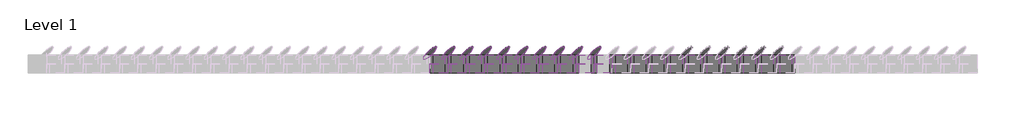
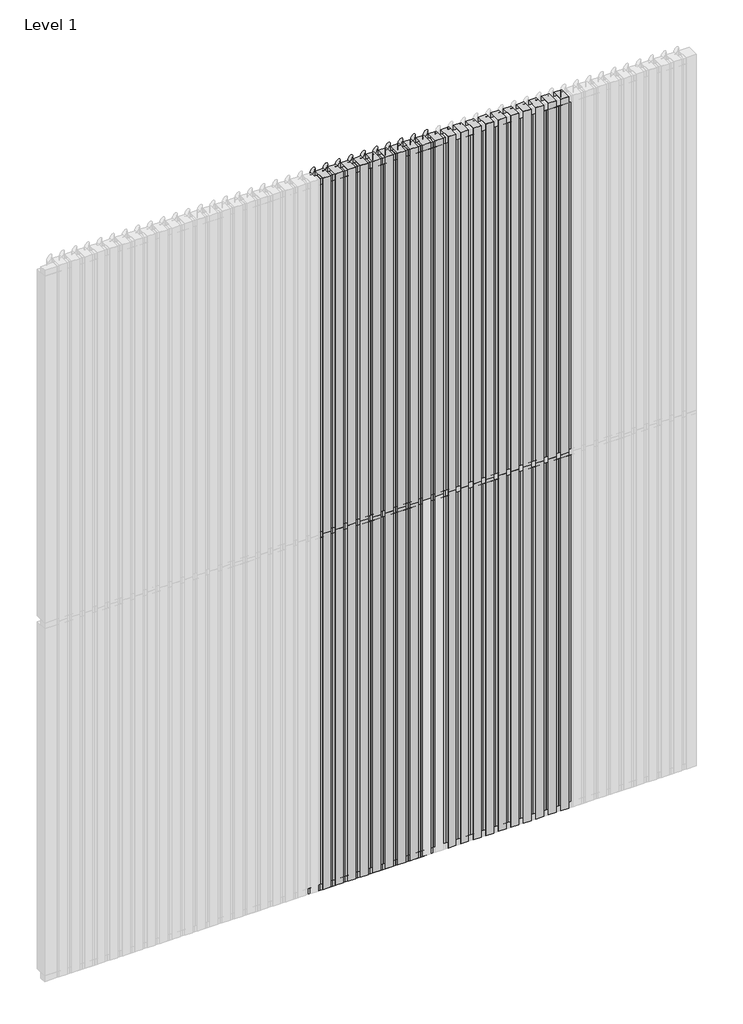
# One storey, part 3 of 4: 78 plates, 56 members.
"""IFC4 building model written with IfcOpenShell, lengths in millimetres."""

from ifc_helpers import new_model, si_unit, origin, place, context, project, spatial, transform, mapped, element, save
from components import rectangular_mullion_c274bac7, rectangular_mullion_cddbc660, rectangular_mullion_a3e25429, rectangular_mullion_ae434dd9, empty_system_panel_empty_80e3f5b0, empty_system_panel_empty_147de6ce

model = new_model("IFC4")

# Units and contexts
model_context = context("Model", 3, world=origin())
ifc_project = project(units=[si_unit("LENGTHUNIT", "METRE", prefix="MILLI")], contexts=[model_context])

# Site, building, storey
site = spatial("IfcSite", under=ifc_project)
building = spatial("IfcBuilding", under=site)
storey = spatial("IfcBuildingStorey", under=building, Name="Level 1", Elevation=0.0)

# Members
placement = place(None, origin())
rectangular_mullion_shape = rectangular_mullion_c274bac7(model_context)
element("IfcMember", 1, ObjectType="Rectangular Mullion : RSen_21_CWM_blade - 100 ellips - 45°_gen_duco projects", at=placement, inside=storey, context=model_context, shape_type="MappedRepresentation", body=[
    mapped(rectangular_mullion_shape, transform((4900.0, 3000.0, 0.0), x_axis=(-1.0, 0.0, 0.0), y_axis=(0.0, 1.0, 0.0), z_axis=(0.0, 0.0, -1.0))),
])
element("IfcMember", 2, ObjectType="Rectangular Mullion : RSen_21_CWM_blade - 100 ellips - 45°_gen_duco projects", at=placement, inside=storey, context=model_context, shape_type="MappedRepresentation", body=[
    mapped(rectangular_mullion_shape, transform((4800.0, 3000.0, 0.0), x_axis=(-1.0, 0.0, 0.0), y_axis=(0.0, 1.0, 0.0), z_axis=(0.0, 0.0, -1.0))),
])
element("IfcMember", 3, ObjectType="Rectangular Mullion : RSen_21_CWM_blade - 100 ellips - 45°_gen_duco projects", at=placement, inside=storey, context=model_context, shape_type="MappedRepresentation", body=[
    mapped(rectangular_mullion_shape, transform((4700.0, 3000.0, 0.0), x_axis=(-1.0, 0.0, 0.0), y_axis=(0.0, 1.0, 0.0), z_axis=(0.0, 0.0, -1.0))),
])
element("IfcMember", 4, ObjectType="Rectangular Mullion : RSen_21_CWM_blade - 100 ellips - 45°_gen_duco projects", at=placement, inside=storey, context=model_context, shape_type="MappedRepresentation", body=[
    mapped(rectangular_mullion_shape, transform((4600.0, 3000.0, 0.0), x_axis=(-1.0, 0.0, 0.0), y_axis=(0.0, 1.0, 0.0), z_axis=(0.0, 0.0, -1.0))),
])
element("IfcMember", 5, ObjectType="Rectangular Mullion : RSen_21_CWM_blade - 100 ellips - 45°_gen_duco projects", at=placement, inside=storey, context=model_context, shape_type="MappedRepresentation", body=[
    mapped(rectangular_mullion_shape, transform((4500.0, 3000.0, 0.0), x_axis=(-1.0, 0.0, 0.0), y_axis=(0.0, 1.0, 0.0), z_axis=(0.0, 0.0, -1.0))),
])
element("IfcMember", 6, ObjectType="Rectangular Mullion : RSen_21_CWM_blade - 100 ellips - 45°_gen_duco projects", at=placement, inside=storey, context=model_context, shape_type="MappedRepresentation", body=[
    mapped(rectangular_mullion_shape, transform((4400.0, 3000.0, 0.0), x_axis=(-1.0, 0.0, 0.0), y_axis=(0.0, 1.0, 0.0), z_axis=(0.0, 0.0, -1.0))),
])
element("IfcMember", 7, ObjectType="Rectangular Mullion : RSen_21_CWM_blade - 100 ellips - 45°_gen_duco projects", at=placement, inside=storey, context=model_context, shape_type="MappedRepresentation", body=[
    mapped(rectangular_mullion_shape, transform((3900.0, 3000.0, 0.0), x_axis=(-1.0, 0.0, 0.0), y_axis=(0.0, 1.0, 0.0), z_axis=(0.0, 0.0, -1.0))),
])
element("IfcMember", 8, ObjectType="Rectangular Mullion : RSen_21_CWM_blade - 100 ellips - 45°_gen_duco projects", at=placement, inside=storey, context=model_context, shape_type="MappedRepresentation", body=[
    mapped(rectangular_mullion_shape, transform((3800.0, 3000.0, 0.0), x_axis=(-1.0, 0.0, 0.0), y_axis=(0.0, 1.0, 0.0), z_axis=(0.0, 0.0, -1.0))),
])
element("IfcMember", 9, ObjectType="Rectangular Mullion : RSen_21_CWM_blade - 100 ellips - 45°_gen_duco projects", at=placement, inside=storey, context=model_context, shape_type="MappedRepresentation", body=[
    mapped(rectangular_mullion_shape, transform((3700.0, 3000.0, 0.0), x_axis=(-1.0, 0.0, 0.0), y_axis=(0.0, 1.0, 0.0), z_axis=(0.0, 0.0, -1.0))),
])
element("IfcMember", 10, ObjectType="Rectangular Mullion : RSen_21_CWM_blade - 100 ellips - 45°_gen_duco projects", at=placement, inside=storey, context=model_context, shape_type="MappedRepresentation", body=[
    mapped(rectangular_mullion_shape, transform((3600.0, 3000.0, 0.0), x_axis=(-1.0, 0.0, 0.0), y_axis=(0.0, 1.0, 0.0), z_axis=(0.0, 0.0, -1.0))),
])
element("IfcMember", 11, ObjectType="Rectangular Mullion : RSen_21_CWM_blade - 100 ellips - 45°_gen_duco projects", at=placement, inside=storey, context=model_context, shape_type="MappedRepresentation", body=[
    mapped(rectangular_mullion_shape, transform((3500.0, 3000.0, 0.0), x_axis=(-1.0, 0.0, 0.0), y_axis=(0.0, 1.0, 0.0), z_axis=(0.0, 0.0, -1.0))),
])
element("IfcMember", 12, ObjectType="Rectangular Mullion : RSen_21_CWM_blade - 100 ellips - 45°_gen_duco projects", at=placement, inside=storey, context=model_context, shape_type="MappedRepresentation", body=[
    mapped(rectangular_mullion_shape, transform((3400.0, 3000.0, 0.0), x_axis=(-1.0, 0.0, 0.0), y_axis=(0.0, 1.0, 0.0), z_axis=(0.0, 0.0, -1.0))),
])
element("IfcMember", 13, ObjectType="Rectangular Mullion : RSen_21_CWM_blade - 100 ellips - 45°_gen_duco projects", at=placement, inside=storey, context=model_context, shape_type="MappedRepresentation", body=[
    mapped(rectangular_mullion_shape, transform((3300.0, 3000.0, 0.0), x_axis=(-1.0, 0.0, 0.0), y_axis=(0.0, 1.0, 0.0), z_axis=(0.0, 0.0, -1.0))),
])
element("IfcMember", 14, ObjectType="Rectangular Mullion : RSen_21_CWM_blade - 100 ellips - 45°_gen_duco projects", at=placement, inside=storey, context=model_context, shape_type="MappedRepresentation", body=[
    mapped(rectangular_mullion_shape, transform((3200.0, 3000.0, 0.0), x_axis=(-1.0, 0.0, 0.0), y_axis=(0.0, 1.0, 0.0), z_axis=(0.0, 0.0, -1.0))),
])
element("IfcMember", 15, ObjectType="Rectangular Mullion : RSen_21_CWM_blade - 100 ellips - 45°_gen_duco projects", at=placement, inside=storey, context=model_context, shape_type="MappedRepresentation", body=[
    mapped(rectangular_mullion_shape, transform((3100.0, 3000.0, 0.0), x_axis=(-1.0, 0.0, 0.0), y_axis=(0.0, 1.0, 0.0), z_axis=(0.0, 0.0, -1.0))),
])
element("IfcMember", 16, ObjectType="Rectangular Mullion : RSen_21_CWM_blade - 100 ellips - 45°_gen_duco projects", at=placement, inside=storey, context=model_context, shape_type="MappedRepresentation", body=[
    mapped(rectangular_mullion_shape, transform((3000.0, 3000.0, 0.0), x_axis=(-1.0, 0.0, 0.0), y_axis=(0.0, 1.0, 0.0), z_axis=(0.0, 0.0, -1.0))),
])
element("IfcMember", 17, ObjectType="Rectangular Mullion : RSen_21_CWM_blade - 100 ellips - 45°_gen_duco projects", at=placement, inside=storey, context=model_context, shape_type="MappedRepresentation", body=[
    mapped(rectangular_mullion_shape, transform((3900.0, 3000.0, 3000.0), x_axis=(-1.0, 0.0, 0.0), y_axis=(0.0, 1.0, 0.0), z_axis=(0.0, 0.0, -1.0))),
])
element("IfcMember", 18, ObjectType="Rectangular Mullion : RSen_21_CWM_blade - 100 ellips - 45°_gen_duco projects", at=placement, inside=storey, context=model_context, shape_type="MappedRepresentation", body=[
    mapped(rectangular_mullion_shape, transform((3800.0, 3000.0, 3000.0), x_axis=(-1.0, 0.0, 0.0), y_axis=(0.0, 1.0, 0.0), z_axis=(0.0, 0.0, -1.0))),
])
element("IfcMember", 19, ObjectType="Rectangular Mullion : RSen_21_CWM_blade - 100 ellips - 45°_gen_duco projects", at=placement, inside=storey, context=model_context, shape_type="MappedRepresentation", body=[
    mapped(rectangular_mullion_shape, transform((3700.0, 3000.0, 3000.0), x_axis=(-1.0, 0.0, 0.0), y_axis=(0.0, 1.0, 0.0), z_axis=(0.0, 0.0, -1.0))),
])
element("IfcMember", 20, ObjectType="Rectangular Mullion : RSen_21_CWM_blade - 100 ellips - 45°_gen_duco projects", at=placement, inside=storey, context=model_context, shape_type="MappedRepresentation", body=[
    mapped(rectangular_mullion_shape, transform((3600.0, 3000.0, 3000.0), x_axis=(-1.0, 0.0, 0.0), y_axis=(0.0, 1.0, 0.0), z_axis=(0.0, 0.0, -1.0))),
])
element("IfcMember", 21, ObjectType="Rectangular Mullion : RSen_21_CWM_blade - 100 ellips - 45°_gen_duco projects", at=placement, inside=storey, context=model_context, shape_type="MappedRepresentation", body=[
    mapped(rectangular_mullion_shape, transform((3500.0, 3000.0, 3000.0), x_axis=(-1.0, 0.0, 0.0), y_axis=(0.0, 1.0, 0.0), z_axis=(0.0, 0.0, -1.0))),
])
element("IfcMember", 22, ObjectType="Rectangular Mullion : RSen_21_CWM_blade - 100 ellips - 45°_gen_duco projects", at=placement, inside=storey, context=model_context, shape_type="MappedRepresentation", body=[
    mapped(rectangular_mullion_shape, transform((3400.0, 3000.0, 3000.0), x_axis=(-1.0, 0.0, 0.0), y_axis=(0.0, 1.0, 0.0), z_axis=(0.0, 0.0, -1.0))),
])
element("IfcMember", 23, ObjectType="Rectangular Mullion : RSen_21_CWM_blade - 100 ellips - 45°_gen_duco projects", at=placement, inside=storey, context=model_context, shape_type="MappedRepresentation", body=[
    mapped(rectangular_mullion_shape, transform((3300.0, 3000.0, 3000.0), x_axis=(-1.0, 0.0, 0.0), y_axis=(0.0, 1.0, 0.0), z_axis=(0.0, 0.0, -1.0))),
])
element("IfcMember", 24, ObjectType="Rectangular Mullion : RSen_21_CWM_blade - 100 ellips - 45°_gen_duco projects", at=placement, inside=storey, context=model_context, shape_type="MappedRepresentation", body=[
    mapped(rectangular_mullion_shape, transform((3200.0, 3000.0, 3000.0), x_axis=(-1.0, 0.0, 0.0), y_axis=(0.0, 1.0, 0.0), z_axis=(0.0, 0.0, -1.0))),
])
element("IfcMember", 25, ObjectType="Rectangular Mullion : RSen_21_CWM_blade - 100 ellips - 45°_gen_duco projects", at=placement, inside=storey, context=model_context, shape_type="MappedRepresentation", body=[
    mapped(rectangular_mullion_shape, transform((3100.0, 3000.0, 3000.0), x_axis=(-1.0, 0.0, 0.0), y_axis=(0.0, 1.0, 0.0), z_axis=(0.0, 0.0, -1.0))),
])
element("IfcMember", 26, ObjectType="Rectangular Mullion : RSen_21_CWM_blade - 100 ellips - 45°_gen_duco projects", at=placement, inside=storey, context=model_context, shape_type="MappedRepresentation", body=[
    mapped(rectangular_mullion_shape, transform((3000.0, 3000.0, 3000.0), x_axis=(-1.0, 0.0, 0.0), y_axis=(0.0, 1.0, 0.0), z_axis=(0.0, 0.0, -1.0))),
])
rectangular_mullion_2_shape = rectangular_mullion_cddbc660(model_context)
element("IfcMember", 27, ObjectType="Rectangular Mullion : RSen_21_CWM_support profile 50x50 - left_gen_duco projects", at=placement, inside=storey, context=model_context, shape_type="MappedRepresentation", body=[
    mapped(rectangular_mullion_2_shape, transform((3900.0, 3000.0, 6000.0), x_axis=(0.0, 0.0, 1.0), y_axis=(0.0, 1.0, 0.0), z_axis=(-1.0, 0.0, 0.0))),
])
element("IfcMember", 28, ObjectType="Rectangular Mullion : RSen_21_CWM_support profile 50x50 - left_gen_duco projects", at=placement, inside=storey, context=model_context, shape_type="MappedRepresentation", body=[
    mapped(rectangular_mullion_2_shape, transform((3800.0, 3000.0, 6000.0), x_axis=(0.0, 0.0, 1.0), y_axis=(0.0, 1.0, 0.0), z_axis=(-1.0, 0.0, 0.0))),
])
element("IfcMember", 29, ObjectType="Rectangular Mullion : RSen_21_CWM_support profile 50x50 - left_gen_duco projects", at=placement, inside=storey, context=model_context, shape_type="MappedRepresentation", body=[
    mapped(rectangular_mullion_2_shape, transform((3700.0, 3000.0, 6000.0), x_axis=(0.0, 0.0, 1.0), y_axis=(0.0, 1.0, 0.0), z_axis=(-1.0, 0.0, 0.0))),
])
element("IfcMember", 30, ObjectType="Rectangular Mullion : RSen_21_CWM_support profile 50x50 - left_gen_duco projects", at=placement, inside=storey, context=model_context, shape_type="MappedRepresentation", body=[
    mapped(rectangular_mullion_2_shape, transform((3600.0, 3000.0, 6000.0), x_axis=(0.0, 0.0, 1.0), y_axis=(0.0, 1.0, 0.0), z_axis=(-1.0, 0.0, 0.0))),
])
element("IfcMember", 31, ObjectType="Rectangular Mullion : RSen_21_CWM_support profile 50x50 - left_gen_duco projects", at=placement, inside=storey, context=model_context, shape_type="MappedRepresentation", body=[
    mapped(rectangular_mullion_2_shape, transform((3500.0, 3000.0, 6000.0), x_axis=(0.0, 0.0, 1.0), y_axis=(0.0, 1.0, 0.0), z_axis=(-1.0, 0.0, 0.0))),
])
element("IfcMember", 32, ObjectType="Rectangular Mullion : RSen_21_CWM_support profile 50x50 - left_gen_duco projects", at=placement, inside=storey, context=model_context, shape_type="MappedRepresentation", body=[
    mapped(rectangular_mullion_2_shape, transform((3400.0, 3000.0, 6000.0), x_axis=(0.0, 0.0, 1.0), y_axis=(0.0, 1.0, 0.0), z_axis=(-1.0, 0.0, 0.0))),
])
element("IfcMember", 33, ObjectType="Rectangular Mullion : RSen_21_CWM_support profile 50x50 - left_gen_duco projects", at=placement, inside=storey, context=model_context, shape_type="MappedRepresentation", body=[
    mapped(rectangular_mullion_2_shape, transform((3300.0, 3000.0, 6000.0), x_axis=(0.0, 0.0, 1.0), y_axis=(0.0, 1.0, 0.0), z_axis=(-1.0, 0.0, 0.0))),
])
element("IfcMember", 34, ObjectType="Rectangular Mullion : RSen_21_CWM_support profile 50x50 - left_gen_duco projects", at=placement, inside=storey, context=model_context, shape_type="MappedRepresentation", body=[
    mapped(rectangular_mullion_2_shape, transform((3200.0, 3000.0, 6000.0), x_axis=(0.0, 0.0, 1.0), y_axis=(0.0, 1.0, 0.0), z_axis=(-1.0, 0.0, 0.0))),
])
element("IfcMember", 35, ObjectType="Rectangular Mullion : RSen_21_CWM_support profile 50x50 - left_gen_duco projects", at=placement, inside=storey, context=model_context, shape_type="MappedRepresentation", body=[
    mapped(rectangular_mullion_2_shape, transform((3100.0, 3000.0, 6000.0), x_axis=(0.0, 0.0, 1.0), y_axis=(0.0, 1.0, 0.0), z_axis=(-1.0, 0.0, 0.0))),
])
element("IfcMember", 36, ObjectType="Rectangular Mullion : RSen_21_CWM_support profile 50x50 - left_gen_duco projects", at=placement, inside=storey, context=model_context, shape_type="MappedRepresentation", body=[
    mapped(rectangular_mullion_2_shape, transform((3000.0, 3000.0, 6000.0), x_axis=(0.0, 0.0, 1.0), y_axis=(0.0, 1.0, 0.0), z_axis=(-1.0, 0.0, 0.0))),
])
rectangular_mullion_3_shape = rectangular_mullion_a3e25429(model_context)
element("IfcMember", 37, ObjectType="Rectangular Mullion : RSen_21_CWM_support profile 50x50 - right_gen_duco projects", at=placement, inside=storey, context=model_context, shape_type="MappedRepresentation", body=[
    mapped(rectangular_mullion_3_shape, transform((3900.0, 3000.0, 0.0), x_axis=(0.0, 0.0, -1.0), y_axis=(0.0, 1.0, 0.0), z_axis=(1.0, 0.0, 0.0))),
])
element("IfcMember", 38, ObjectType="Rectangular Mullion : RSen_21_CWM_support profile 50x50 - right_gen_duco projects", at=placement, inside=storey, context=model_context, shape_type="MappedRepresentation", body=[
    mapped(rectangular_mullion_3_shape, transform((3800.0, 3000.0, 0.0), x_axis=(0.0, 0.0, -1.0), y_axis=(0.0, 1.0, 0.0), z_axis=(1.0, 0.0, 0.0))),
])
element("IfcMember", 39, ObjectType="Rectangular Mullion : RSen_21_CWM_support profile 50x50 - right_gen_duco projects", at=placement, inside=storey, context=model_context, shape_type="MappedRepresentation", body=[
    mapped(rectangular_mullion_3_shape, transform((3700.0, 3000.0, 0.0), x_axis=(0.0, 0.0, -1.0), y_axis=(0.0, 1.0, 0.0), z_axis=(1.0, 0.0, 0.0))),
])
element("IfcMember", 40, ObjectType="Rectangular Mullion : RSen_21_CWM_support profile 50x50 - right_gen_duco projects", at=placement, inside=storey, context=model_context, shape_type="MappedRepresentation", body=[
    mapped(rectangular_mullion_3_shape, transform((3600.0, 3000.0, 0.0), x_axis=(0.0, 0.0, -1.0), y_axis=(0.0, 1.0, 0.0), z_axis=(1.0, 0.0, 0.0))),
])
element("IfcMember", 41, ObjectType="Rectangular Mullion : RSen_21_CWM_support profile 50x50 - right_gen_duco projects", at=placement, inside=storey, context=model_context, shape_type="MappedRepresentation", body=[
    mapped(rectangular_mullion_3_shape, transform((3500.0, 3000.0, 0.0), x_axis=(0.0, 0.0, -1.0), y_axis=(0.0, 1.0, 0.0), z_axis=(1.0, 0.0, 0.0))),
])
element("IfcMember", 42, ObjectType="Rectangular Mullion : RSen_21_CWM_support profile 50x50 - right_gen_duco projects", at=placement, inside=storey, context=model_context, shape_type="MappedRepresentation", body=[
    mapped(rectangular_mullion_3_shape, transform((3400.0, 3000.0, 0.0), x_axis=(0.0, 0.0, -1.0), y_axis=(0.0, 1.0, 0.0), z_axis=(1.0, 0.0, 0.0))),
])
element("IfcMember", 43, ObjectType="Rectangular Mullion : RSen_21_CWM_support profile 50x50 - right_gen_duco projects", at=placement, inside=storey, context=model_context, shape_type="MappedRepresentation", body=[
    mapped(rectangular_mullion_3_shape, transform((3300.0, 3000.0, 0.0), x_axis=(0.0, 0.0, -1.0), y_axis=(0.0, 1.0, 0.0), z_axis=(1.0, 0.0, 0.0))),
])
element("IfcMember", 44, ObjectType="Rectangular Mullion : RSen_21_CWM_support profile 50x50 - right_gen_duco projects", at=placement, inside=storey, context=model_context, shape_type="MappedRepresentation", body=[
    mapped(rectangular_mullion_3_shape, transform((3200.0, 3000.0, 0.0), x_axis=(0.0, 0.0, -1.0), y_axis=(0.0, 1.0, 0.0), z_axis=(1.0, 0.0, 0.0))),
])
element("IfcMember", 45, ObjectType="Rectangular Mullion : RSen_21_CWM_support profile 50x50 - right_gen_duco projects", at=placement, inside=storey, context=model_context, shape_type="MappedRepresentation", body=[
    mapped(rectangular_mullion_3_shape, transform((3100.0, 3000.0, 0.0), x_axis=(0.0, 0.0, -1.0), y_axis=(0.0, 1.0, 0.0), z_axis=(1.0, 0.0, 0.0))),
])
element("IfcMember", 46, ObjectType="Rectangular Mullion : RSen_21_CWM_support profile 50x50 - right_gen_duco projects", at=placement, inside=storey, context=model_context, shape_type="MappedRepresentation", body=[
    mapped(rectangular_mullion_3_shape, transform((3000.0, 3000.0, 0.0), x_axis=(0.0, 0.0, -1.0), y_axis=(0.0, 1.0, 0.0), z_axis=(1.0, 0.0, 0.0))),
])
rectangular_mullion_4_shape = rectangular_mullion_ae434dd9(model_context)
element("IfcMember", 47, ObjectType="Rectangular Mullion : RSen_21_CWM_support profile 50x50_gen_duco projects", at=placement, inside=storey, context=model_context, shape_type="MappedRepresentation", body=[
    mapped(rectangular_mullion_4_shape, transform((3900.0, 3000.0, 3000.0), x_axis=(0.0, 0.0, 1.0), y_axis=(0.0, 1.0, 0.0), z_axis=(-1.0, 0.0, 0.0))),
])
element("IfcMember", 48, ObjectType="Rectangular Mullion : RSen_21_CWM_support profile 50x50_gen_duco projects", at=placement, inside=storey, context=model_context, shape_type="MappedRepresentation", body=[
    mapped(rectangular_mullion_4_shape, transform((3800.0, 3000.0, 3000.0), x_axis=(0.0, 0.0, 1.0), y_axis=(0.0, 1.0, 0.0), z_axis=(-1.0, 0.0, 0.0))),
])
element("IfcMember", 49, ObjectType="Rectangular Mullion : RSen_21_CWM_support profile 50x50_gen_duco projects", at=placement, inside=storey, context=model_context, shape_type="MappedRepresentation", body=[
    mapped(rectangular_mullion_4_shape, transform((3700.0, 3000.0, 3000.0), x_axis=(0.0, 0.0, 1.0), y_axis=(0.0, 1.0, 0.0), z_axis=(-1.0, 0.0, 0.0))),
])
element("IfcMember", 50, ObjectType="Rectangular Mullion : RSen_21_CWM_support profile 50x50_gen_duco projects", at=placement, inside=storey, context=model_context, shape_type="MappedRepresentation", body=[
    mapped(rectangular_mullion_4_shape, transform((3600.0, 3000.0, 3000.0), x_axis=(0.0, 0.0, 1.0), y_axis=(0.0, 1.0, 0.0), z_axis=(-1.0, 0.0, 0.0))),
])
element("IfcMember", 51, ObjectType="Rectangular Mullion : RSen_21_CWM_support profile 50x50_gen_duco projects", at=placement, inside=storey, context=model_context, shape_type="MappedRepresentation", body=[
    mapped(rectangular_mullion_4_shape, transform((3500.0, 3000.0, 3000.0), x_axis=(0.0, 0.0, 1.0), y_axis=(0.0, 1.0, 0.0), z_axis=(-1.0, 0.0, 0.0))),
])
element("IfcMember", 52, ObjectType="Rectangular Mullion : RSen_21_CWM_support profile 50x50_gen_duco projects", at=placement, inside=storey, context=model_context, shape_type="MappedRepresentation", body=[
    mapped(rectangular_mullion_4_shape, transform((3400.0, 3000.0, 3000.0), x_axis=(0.0, 0.0, 1.0), y_axis=(0.0, 1.0, 0.0), z_axis=(-1.0, 0.0, 0.0))),
])
element("IfcMember", 53, ObjectType="Rectangular Mullion : RSen_21_CWM_support profile 50x50_gen_duco projects", at=placement, inside=storey, context=model_context, shape_type="MappedRepresentation", body=[
    mapped(rectangular_mullion_4_shape, transform((3300.0, 3000.0, 3000.0), x_axis=(0.0, 0.0, 1.0), y_axis=(0.0, 1.0, 0.0), z_axis=(-1.0, 0.0, 0.0))),
])
element("IfcMember", 54, ObjectType="Rectangular Mullion : RSen_21_CWM_support profile 50x50_gen_duco projects", at=placement, inside=storey, context=model_context, shape_type="MappedRepresentation", body=[
    mapped(rectangular_mullion_4_shape, transform((3200.0, 3000.0, 3000.0), x_axis=(0.0, 0.0, 1.0), y_axis=(0.0, 1.0, 0.0), z_axis=(-1.0, 0.0, 0.0))),
])
element("IfcMember", 55, ObjectType="Rectangular Mullion : RSen_21_CWM_support profile 50x50_gen_duco projects", at=placement, inside=storey, context=model_context, shape_type="MappedRepresentation", body=[
    mapped(rectangular_mullion_4_shape, transform((3100.0, 3000.0, 3000.0), x_axis=(0.0, 0.0, 1.0), y_axis=(0.0, 1.0, 0.0), z_axis=(-1.0, 0.0, 0.0))),
])
element("IfcMember", 56, ObjectType="Rectangular Mullion : RSen_21_CWM_support profile 50x50_gen_duco projects", at=placement, inside=storey, context=model_context, shape_type="MappedRepresentation", body=[
    mapped(rectangular_mullion_4_shape, transform((3000.0, 3000.0, 3000.0), x_axis=(0.0, 0.0, 1.0), y_axis=(0.0, 1.0, 0.0), z_axis=(-1.0, 0.0, 0.0))),
])

# Plates
empty_system_panel_empty_shape = empty_system_panel_empty_80e3f5b0(model_context)
element("IfcPlate", 57, ObjectType="Empty System Panel : Empty", at=placement, inside=storey, context=model_context, shape_type="MappedRepresentation", body=[
    mapped(empty_system_panel_empty_shape, transform((4950.0, 3000.0, 0.0), x_axis=(-1.0, 0.0, 0.0), y_axis=(0.0, -1.0, 0.0), z_axis=(0.0, 0.0, 1.0))),
])
element("IfcPlate", 58, ObjectType="Empty System Panel : Empty", at=placement, inside=storey, context=model_context, shape_type="MappedRepresentation", body=[
    mapped(empty_system_panel_empty_shape, transform((4850.0, 3000.0, 0.0), x_axis=(-1.0, 0.0, 0.0), y_axis=(0.0, -1.0, 0.0), z_axis=(0.0, 0.0, 1.0))),
])
element("IfcPlate", 59, ObjectType="Empty System Panel : Empty", at=placement, inside=storey, context=model_context, shape_type="MappedRepresentation", body=[
    mapped(empty_system_panel_empty_shape, transform((4750.0, 3000.0, 0.0), x_axis=(-1.0, 0.0, 0.0), y_axis=(0.0, -1.0, 0.0), z_axis=(0.0, 0.0, 1.0))),
])
element("IfcPlate", 60, ObjectType="Empty System Panel : Empty", at=placement, inside=storey, context=model_context, shape_type="MappedRepresentation", body=[
    mapped(empty_system_panel_empty_shape, transform((4650.0, 3000.0, 0.0), x_axis=(-1.0, 0.0, 0.0), y_axis=(0.0, -1.0, 0.0), z_axis=(0.0, 0.0, 1.0))),
])
element("IfcPlate", 61, ObjectType="Empty System Panel : Empty", at=placement, inside=storey, context=model_context, shape_type="MappedRepresentation", body=[
    mapped(empty_system_panel_empty_shape, transform((4550.0, 3000.0, 0.0), x_axis=(-1.0, 0.0, 0.0), y_axis=(0.0, -1.0, 0.0), z_axis=(0.0, 0.0, 1.0))),
])
element("IfcPlate", 62, ObjectType="Empty System Panel : Empty", at=placement, inside=storey, context=model_context, shape_type="MappedRepresentation", body=[
    mapped(empty_system_panel_empty_shape, transform((4450.0, 3000.0, 0.0), x_axis=(-1.0, 0.0, 0.0), y_axis=(0.0, -1.0, 0.0), z_axis=(0.0, 0.0, 1.0))),
])
element("IfcPlate", 63, ObjectType="Empty System Panel : Empty", at=placement, inside=storey, context=model_context, shape_type="MappedRepresentation", body=[
    mapped(empty_system_panel_empty_shape, transform((4350.0, 3000.0, 0.0), x_axis=(-1.0, 0.0, 0.0), y_axis=(0.0, -1.0, 0.0), z_axis=(0.0, 0.0, 1.0))),
])
element("IfcPlate", 64, ObjectType="Empty System Panel : Empty", at=placement, inside=storey, context=model_context, shape_type="MappedRepresentation", body=[
    mapped(empty_system_panel_empty_shape, transform((4250.0, 3000.0, 0.0), x_axis=(-1.0, 0.0, 0.0), y_axis=(0.0, -1.0, 0.0), z_axis=(0.0, 0.0, 1.0))),
])
element("IfcPlate", 65, ObjectType="Empty System Panel : Empty", at=placement, inside=storey, context=model_context, shape_type="MappedRepresentation", body=[
    mapped(empty_system_panel_empty_shape, transform((4150.0, 3000.0, 0.0), x_axis=(-1.0, 0.0, 0.0), y_axis=(0.0, -1.0, 0.0), z_axis=(0.0, 0.0, 1.0))),
])
element("IfcPlate", 66, ObjectType="Empty System Panel : Empty", at=placement, inside=storey, context=model_context, shape_type="MappedRepresentation", body=[
    mapped(empty_system_panel_empty_shape, transform((4050.0, 3000.0, 0.0), x_axis=(-1.0, 0.0, 0.0), y_axis=(0.0, -1.0, 0.0), z_axis=(0.0, 0.0, 1.0))),
])
element("IfcPlate", 67, ObjectType="Empty System Panel : Empty", at=placement, inside=storey, context=model_context, shape_type="MappedRepresentation", body=[
    mapped(empty_system_panel_empty_shape, transform((3750.0, 3000.0, 0.0), x_axis=(-1.0, 0.0, 0.0), y_axis=(0.0, -1.0, 0.0), z_axis=(0.0, 0.0, 1.0))),
])
element("IfcPlate", 68, ObjectType="Empty System Panel : Empty", at=placement, inside=storey, context=model_context, shape_type="MappedRepresentation", body=[
    mapped(empty_system_panel_empty_shape, transform((3650.0, 3000.0, 0.0), x_axis=(-1.0, 0.0, 0.0), y_axis=(0.0, -1.0, 0.0), z_axis=(0.0, 0.0, 1.0))),
])
element("IfcPlate", 69, ObjectType="Empty System Panel : Empty", at=placement, inside=storey, context=model_context, shape_type="MappedRepresentation", body=[
    mapped(empty_system_panel_empty_shape, transform((3550.0, 3000.0, 0.0), x_axis=(-1.0, 0.0, 0.0), y_axis=(0.0, -1.0, 0.0), z_axis=(0.0, 0.0, 1.0))),
])
element("IfcPlate", 70, ObjectType="Empty System Panel : Empty", at=placement, inside=storey, context=model_context, shape_type="MappedRepresentation", body=[
    mapped(empty_system_panel_empty_shape, transform((3450.0, 3000.0, 0.0), x_axis=(-1.0, 0.0, 0.0), y_axis=(0.0, -1.0, 0.0), z_axis=(0.0, 0.0, 1.0))),
])
element("IfcPlate", 71, ObjectType="Empty System Panel : Empty", at=placement, inside=storey, context=model_context, shape_type="MappedRepresentation", body=[
    mapped(empty_system_panel_empty_shape, transform((3350.0, 3000.0, 0.0), x_axis=(-1.0, 0.0, 0.0), y_axis=(0.0, -1.0, 0.0), z_axis=(0.0, 0.0, 1.0))),
])
element("IfcPlate", 72, ObjectType="Empty System Panel : Empty", at=placement, inside=storey, context=model_context, shape_type="MappedRepresentation", body=[
    mapped(empty_system_panel_empty_shape, transform((3250.0, 3000.0, 0.0), x_axis=(-1.0, 0.0, 0.0), y_axis=(0.0, -1.0, 0.0), z_axis=(0.0, 0.0, 1.0))),
])
element("IfcPlate", 73, ObjectType="Empty System Panel : Empty", at=placement, inside=storey, context=model_context, shape_type="MappedRepresentation", body=[
    mapped(empty_system_panel_empty_shape, transform((3150.0, 3000.0, 0.0), x_axis=(-1.0, 0.0, 0.0), y_axis=(0.0, -1.0, 0.0), z_axis=(0.0, 0.0, 1.0))),
])
element("IfcPlate", 74, ObjectType="Empty System Panel : Empty", at=placement, inside=storey, context=model_context, shape_type="MappedRepresentation", body=[
    mapped(empty_system_panel_empty_shape, transform((3050.0, 3000.0, 0.0), x_axis=(-1.0, 0.0, 0.0), y_axis=(0.0, -1.0, 0.0), z_axis=(0.0, 0.0, 1.0))),
])
element("IfcPlate", 75, ObjectType="Empty System Panel : Empty", at=placement, inside=storey, context=model_context, shape_type="MappedRepresentation", body=[
    mapped(empty_system_panel_empty_shape, transform((4950.0, 3000.0, 3000.0), x_axis=(-1.0, 0.0, 0.0), y_axis=(0.0, -1.0, 0.0), z_axis=(0.0, 0.0, 1.0))),
])
element("IfcPlate", 76, ObjectType="Empty System Panel : Empty", at=placement, inside=storey, context=model_context, shape_type="MappedRepresentation", body=[
    mapped(empty_system_panel_empty_shape, transform((4850.0, 3000.0, 3000.0), x_axis=(-1.0, 0.0, 0.0), y_axis=(0.0, -1.0, 0.0), z_axis=(0.0, 0.0, 1.0))),
])
element("IfcPlate", 77, ObjectType="Empty System Panel : Empty", at=placement, inside=storey, context=model_context, shape_type="MappedRepresentation", body=[
    mapped(empty_system_panel_empty_shape, transform((4750.0, 3000.0, 3000.0), x_axis=(-1.0, 0.0, 0.0), y_axis=(0.0, -1.0, 0.0), z_axis=(0.0, 0.0, 1.0))),
])
element("IfcPlate", 78, ObjectType="Empty System Panel : Empty", at=placement, inside=storey, context=model_context, shape_type="MappedRepresentation", body=[
    mapped(empty_system_panel_empty_shape, transform((4650.0, 3000.0, 3000.0), x_axis=(-1.0, 0.0, 0.0), y_axis=(0.0, -1.0, 0.0), z_axis=(0.0, 0.0, 1.0))),
])
element("IfcPlate", 79, ObjectType="Empty System Panel : Empty", at=placement, inside=storey, context=model_context, shape_type="MappedRepresentation", body=[
    mapped(empty_system_panel_empty_shape, transform((4550.0, 3000.0, 3000.0), x_axis=(-1.0, 0.0, 0.0), y_axis=(0.0, -1.0, 0.0), z_axis=(0.0, 0.0, 1.0))),
])
element("IfcPlate", 80, ObjectType="Empty System Panel : Empty", at=placement, inside=storey, context=model_context, shape_type="MappedRepresentation", body=[
    mapped(empty_system_panel_empty_shape, transform((4450.0, 3000.0, 3000.0), x_axis=(-1.0, 0.0, 0.0), y_axis=(0.0, -1.0, 0.0), z_axis=(0.0, 0.0, 1.0))),
])
element("IfcPlate", 81, ObjectType="Empty System Panel : Empty", at=placement, inside=storey, context=model_context, shape_type="MappedRepresentation", body=[
    mapped(empty_system_panel_empty_shape, transform((4350.0, 3000.0, 3000.0), x_axis=(-1.0, 0.0, 0.0), y_axis=(0.0, -1.0, 0.0), z_axis=(0.0, 0.0, 1.0))),
])
element("IfcPlate", 82, ObjectType="Empty System Panel : Empty", at=placement, inside=storey, context=model_context, shape_type="MappedRepresentation", body=[
    mapped(empty_system_panel_empty_shape, transform((4250.0, 3000.0, 3000.0), x_axis=(-1.0, 0.0, 0.0), y_axis=(0.0, -1.0, 0.0), z_axis=(0.0, 0.0, 1.0))),
])
element("IfcPlate", 83, ObjectType="Empty System Panel : Empty", at=placement, inside=storey, context=model_context, shape_type="MappedRepresentation", body=[
    mapped(empty_system_panel_empty_shape, transform((4150.0, 3000.0, 3000.0), x_axis=(-1.0, 0.0, 0.0), y_axis=(0.0, -1.0, 0.0), z_axis=(0.0, 0.0, 1.0))),
])
element("IfcPlate", 84, ObjectType="Empty System Panel : Empty", at=placement, inside=storey, context=model_context, shape_type="MappedRepresentation", body=[
    mapped(empty_system_panel_empty_shape, transform((4050.0, 3000.0, 3000.0), x_axis=(-1.0, 0.0, 0.0), y_axis=(0.0, -1.0, 0.0), z_axis=(0.0, 0.0, 1.0))),
])
element("IfcPlate", 85, ObjectType="Empty System Panel : Empty", at=placement, inside=storey, context=model_context, shape_type="MappedRepresentation", body=[
    mapped(empty_system_panel_empty_shape, transform((3950.0, 3000.0, 3000.0), x_axis=(-1.0, 0.0, 0.0), y_axis=(0.0, -1.0, 0.0), z_axis=(0.0, 0.0, 1.0))),
])
element("IfcPlate", 86, ObjectType="Empty System Panel : Empty", at=placement, inside=storey, context=model_context, shape_type="MappedRepresentation", body=[
    mapped(empty_system_panel_empty_shape, transform((3850.0, 3000.0, 3000.0), x_axis=(-1.0, 0.0, 0.0), y_axis=(0.0, -1.0, 0.0), z_axis=(0.0, 0.0, 1.0))),
])
element("IfcPlate", 87, ObjectType="Empty System Panel : Empty", at=placement, inside=storey, context=model_context, shape_type="MappedRepresentation", body=[
    mapped(empty_system_panel_empty_shape, transform((3750.0, 3000.0, 3000.0), x_axis=(-1.0, 0.0, 0.0), y_axis=(0.0, -1.0, 0.0), z_axis=(0.0, 0.0, 1.0))),
])
element("IfcPlate", 88, ObjectType="Empty System Panel : Empty", at=placement, inside=storey, context=model_context, shape_type="MappedRepresentation", body=[
    mapped(empty_system_panel_empty_shape, transform((3650.0, 3000.0, 3000.0), x_axis=(-1.0, 0.0, 0.0), y_axis=(0.0, -1.0, 0.0), z_axis=(0.0, 0.0, 1.0))),
])
element("IfcPlate", 89, ObjectType="Empty System Panel : Empty", at=placement, inside=storey, context=model_context, shape_type="MappedRepresentation", body=[
    mapped(empty_system_panel_empty_shape, transform((3550.0, 3000.0, 3000.0), x_axis=(-1.0, 0.0, 0.0), y_axis=(0.0, -1.0, 0.0), z_axis=(0.0, 0.0, 1.0))),
])
element("IfcPlate", 90, ObjectType="Empty System Panel : Empty", at=placement, inside=storey, context=model_context, shape_type="MappedRepresentation", body=[
    mapped(empty_system_panel_empty_shape, transform((3450.0, 3000.0, 3000.0), x_axis=(-1.0, 0.0, 0.0), y_axis=(0.0, -1.0, 0.0), z_axis=(0.0, 0.0, 1.0))),
])
element("IfcPlate", 91, ObjectType="Empty System Panel : Empty", at=placement, inside=storey, context=model_context, shape_type="MappedRepresentation", body=[
    mapped(empty_system_panel_empty_shape, transform((3350.0, 3000.0, 3000.0), x_axis=(-1.0, 0.0, 0.0), y_axis=(0.0, -1.0, 0.0), z_axis=(0.0, 0.0, 1.0))),
])
element("IfcPlate", 92, ObjectType="Empty System Panel : Empty", at=placement, inside=storey, context=model_context, shape_type="MappedRepresentation", body=[
    mapped(empty_system_panel_empty_shape, transform((3250.0, 3000.0, 3000.0), x_axis=(-1.0, 0.0, 0.0), y_axis=(0.0, -1.0, 0.0), z_axis=(0.0, 0.0, 1.0))),
])
element("IfcPlate", 93, ObjectType="Empty System Panel : Empty", at=placement, inside=storey, context=model_context, shape_type="MappedRepresentation", body=[
    mapped(empty_system_panel_empty_shape, transform((3150.0, 3000.0, 3000.0), x_axis=(-1.0, 0.0, 0.0), y_axis=(0.0, -1.0, 0.0), z_axis=(0.0, 0.0, 1.0))),
])
element("IfcPlate", 94, ObjectType="Empty System Panel : Empty", at=placement, inside=storey, context=model_context, shape_type="MappedRepresentation", body=[
    mapped(empty_system_panel_empty_shape, transform((3050.0, 3000.0, 3000.0), x_axis=(-1.0, 0.0, 0.0), y_axis=(0.0, -1.0, 0.0), z_axis=(0.0, 0.0, 1.0))),
])
empty_system_panel_empty_2_shape = empty_system_panel_empty_147de6ce(model_context)
element("IfcPlate", 95, ObjectType="Empty System Panel : Empty", at=placement, inside=storey, context=model_context, shape_type="MappedRepresentation", body=[
    mapped(empty_system_panel_empty_2_shape, transform((4950.0, 3000.0, 50.0), x_axis=(-1.0, 0.0, 0.0), y_axis=(0.0, -1.0, 0.0), z_axis=(0.0, 0.0, 1.0))),
])
element("IfcPlate", 96, ObjectType="Empty System Panel : Empty", at=placement, inside=storey, context=model_context, shape_type="MappedRepresentation", body=[
    mapped(empty_system_panel_empty_2_shape, transform((4850.0, 3000.0, 50.0), x_axis=(-1.0, 0.0, 0.0), y_axis=(0.0, -1.0, 0.0), z_axis=(0.0, 0.0, 1.0))),
])
element("IfcPlate", 97, ObjectType="Empty System Panel : Empty", at=placement, inside=storey, context=model_context, shape_type="MappedRepresentation", body=[
    mapped(empty_system_panel_empty_2_shape, transform((4750.0, 3000.0, 50.0), x_axis=(-1.0, 0.0, 0.0), y_axis=(0.0, -1.0, 0.0), z_axis=(0.0, 0.0, 1.0))),
])
element("IfcPlate", 98, ObjectType="Empty System Panel : Empty", at=placement, inside=storey, context=model_context, shape_type="MappedRepresentation", body=[
    mapped(empty_system_panel_empty_2_shape, transform((4650.0, 3000.0, 50.0), x_axis=(-1.0, 0.0, 0.0), y_axis=(0.0, -1.0, 0.0), z_axis=(0.0, 0.0, 1.0))),
])
element("IfcPlate", 99, ObjectType="Empty System Panel : Empty", at=placement, inside=storey, context=model_context, shape_type="MappedRepresentation", body=[
    mapped(empty_system_panel_empty_2_shape, transform((4550.0, 3000.0, 50.0), x_axis=(-1.0, 0.0, 0.0), y_axis=(0.0, -1.0, 0.0), z_axis=(0.0, 0.0, 1.0))),
])
element("IfcPlate", 100, ObjectType="Empty System Panel : Empty", at=placement, inside=storey, context=model_context, shape_type="MappedRepresentation", body=[
    mapped(empty_system_panel_empty_2_shape, transform((4450.0, 3000.0, 50.0), x_axis=(-1.0, 0.0, 0.0), y_axis=(0.0, -1.0, 0.0), z_axis=(0.0, 0.0, 1.0))),
])
element("IfcPlate", 101, ObjectType="Empty System Panel : Empty", at=placement, inside=storey, context=model_context, shape_type="MappedRepresentation", body=[
    mapped(empty_system_panel_empty_2_shape, transform((4350.0, 3000.0, 50.0), x_axis=(-1.0, 0.0, 0.0), y_axis=(0.0, -1.0, 0.0), z_axis=(0.0, 0.0, 1.0))),
])
element("IfcPlate", 102, ObjectType="Empty System Panel : Empty", at=placement, inside=storey, context=model_context, shape_type="MappedRepresentation", body=[
    mapped(empty_system_panel_empty_2_shape, transform((4250.0, 3000.0, 50.0), x_axis=(-1.0, 0.0, 0.0), y_axis=(0.0, -1.0, 0.0), z_axis=(0.0, 0.0, 1.0))),
])
element("IfcPlate", 103, ObjectType="Empty System Panel : Empty", at=placement, inside=storey, context=model_context, shape_type="MappedRepresentation", body=[
    mapped(empty_system_panel_empty_2_shape, transform((4150.0, 3000.0, 50.0), x_axis=(-1.0, 0.0, 0.0), y_axis=(0.0, -1.0, 0.0), z_axis=(0.0, 0.0, 1.0))),
])
element("IfcPlate", 104, ObjectType="Empty System Panel : Empty", at=placement, inside=storey, context=model_context, shape_type="MappedRepresentation", body=[
    mapped(empty_system_panel_empty_2_shape, transform((4050.0, 3000.0, 50.0), x_axis=(-1.0, 0.0, 0.0), y_axis=(0.0, -1.0, 0.0), z_axis=(0.0, 0.0, 1.0))),
])
element("IfcPlate", 105, ObjectType="Empty System Panel : Empty", at=placement, inside=storey, context=model_context, shape_type="MappedRepresentation", body=[
    mapped(empty_system_panel_empty_2_shape, transform((3950.0, 3000.0, 50.0), x_axis=(-1.0, 0.0, 0.0), y_axis=(0.0, -1.0, 0.0), z_axis=(0.0, 0.0, 1.0))),
])
element("IfcPlate", 106, ObjectType="Empty System Panel : Empty", at=placement, inside=storey, context=model_context, shape_type="MappedRepresentation", body=[
    mapped(empty_system_panel_empty_2_shape, transform((3850.0, 3000.0, 50.0), x_axis=(-1.0, 0.0, 0.0), y_axis=(0.0, -1.0, 0.0), z_axis=(0.0, 0.0, 1.0))),
])
element("IfcPlate", 107, ObjectType="Empty System Panel : Empty", at=placement, inside=storey, context=model_context, shape_type="MappedRepresentation", body=[
    mapped(empty_system_panel_empty_2_shape, transform((3750.0, 3000.0, 50.0), x_axis=(-1.0, 0.0, 0.0), y_axis=(0.0, -1.0, 0.0), z_axis=(0.0, 0.0, 1.0))),
])
element("IfcPlate", 108, ObjectType="Empty System Panel : Empty", at=placement, inside=storey, context=model_context, shape_type="MappedRepresentation", body=[
    mapped(empty_system_panel_empty_2_shape, transform((3650.0, 3000.0, 50.0), x_axis=(-1.0, 0.0, 0.0), y_axis=(0.0, -1.0, 0.0), z_axis=(0.0, 0.0, 1.0))),
])
element("IfcPlate", 109, ObjectType="Empty System Panel : Empty", at=placement, inside=storey, context=model_context, shape_type="MappedRepresentation", body=[
    mapped(empty_system_panel_empty_2_shape, transform((3550.0, 3000.0, 50.0), x_axis=(-1.0, 0.0, 0.0), y_axis=(0.0, -1.0, 0.0), z_axis=(0.0, 0.0, 1.0))),
])
element("IfcPlate", 110, ObjectType="Empty System Panel : Empty", at=placement, inside=storey, context=model_context, shape_type="MappedRepresentation", body=[
    mapped(empty_system_panel_empty_2_shape, transform((3450.0, 3000.0, 50.0), x_axis=(-1.0, 0.0, 0.0), y_axis=(0.0, -1.0, 0.0), z_axis=(0.0, 0.0, 1.0))),
])
element("IfcPlate", 111, ObjectType="Empty System Panel : Empty", at=placement, inside=storey, context=model_context, shape_type="MappedRepresentation", body=[
    mapped(empty_system_panel_empty_2_shape, transform((3350.0, 3000.0, 50.0), x_axis=(-1.0, 0.0, 0.0), y_axis=(0.0, -1.0, 0.0), z_axis=(0.0, 0.0, 1.0))),
])
element("IfcPlate", 112, ObjectType="Empty System Panel : Empty", at=placement, inside=storey, context=model_context, shape_type="MappedRepresentation", body=[
    mapped(empty_system_panel_empty_2_shape, transform((3250.0, 3000.0, 50.0), x_axis=(-1.0, 0.0, 0.0), y_axis=(0.0, -1.0, 0.0), z_axis=(0.0, 0.0, 1.0))),
])
element("IfcPlate", 113, ObjectType="Empty System Panel : Empty", at=placement, inside=storey, context=model_context, shape_type="MappedRepresentation", body=[
    mapped(empty_system_panel_empty_2_shape, transform((3150.0, 3000.0, 50.0), x_axis=(-1.0, 0.0, 0.0), y_axis=(0.0, -1.0, 0.0), z_axis=(0.0, 0.0, 1.0))),
])
element("IfcPlate", 114, ObjectType="Empty System Panel : Empty", at=placement, inside=storey, context=model_context, shape_type="MappedRepresentation", body=[
    mapped(empty_system_panel_empty_2_shape, transform((3050.0, 3000.0, 50.0), x_axis=(-1.0, 0.0, 0.0), y_axis=(0.0, -1.0, 0.0), z_axis=(0.0, 0.0, 1.0))),
])
element("IfcPlate", 115, ObjectType="Empty System Panel : Empty", at=placement, inside=storey, context=model_context, shape_type="MappedRepresentation", body=[
    mapped(empty_system_panel_empty_2_shape, transform((4950.0, 3000.0, 3025.0), x_axis=(-1.0, 0.0, 0.0), y_axis=(0.0, -1.0, 0.0), z_axis=(0.0, 0.0, 1.0))),
])
element("IfcPlate", 116, ObjectType="Empty System Panel : Empty", at=placement, inside=storey, context=model_context, shape_type="MappedRepresentation", body=[
    mapped(empty_system_panel_empty_2_shape, transform((4850.0, 3000.0, 3025.0), x_axis=(-1.0, 0.0, 0.0), y_axis=(0.0, -1.0, 0.0), z_axis=(0.0, 0.0, 1.0))),
])
element("IfcPlate", 117, ObjectType="Empty System Panel : Empty", at=placement, inside=storey, context=model_context, shape_type="MappedRepresentation", body=[
    mapped(empty_system_panel_empty_2_shape, transform((4750.0, 3000.0, 3025.0), x_axis=(-1.0, 0.0, 0.0), y_axis=(0.0, -1.0, 0.0), z_axis=(0.0, 0.0, 1.0))),
])
element("IfcPlate", 118, ObjectType="Empty System Panel : Empty", at=placement, inside=storey, context=model_context, shape_type="MappedRepresentation", body=[
    mapped(empty_system_panel_empty_2_shape, transform((4650.0, 3000.0, 3025.0), x_axis=(-1.0, 0.0, 0.0), y_axis=(0.0, -1.0, 0.0), z_axis=(0.0, 0.0, 1.0))),
])
element("IfcPlate", 119, ObjectType="Empty System Panel : Empty", at=placement, inside=storey, context=model_context, shape_type="MappedRepresentation", body=[
    mapped(empty_system_panel_empty_2_shape, transform((4550.0, 3000.0, 3025.0), x_axis=(-1.0, 0.0, 0.0), y_axis=(0.0, -1.0, 0.0), z_axis=(0.0, 0.0, 1.0))),
])
element("IfcPlate", 120, ObjectType="Empty System Panel : Empty", at=placement, inside=storey, context=model_context, shape_type="MappedRepresentation", body=[
    mapped(empty_system_panel_empty_2_shape, transform((4450.0, 3000.0, 3025.0), x_axis=(-1.0, 0.0, 0.0), y_axis=(0.0, -1.0, 0.0), z_axis=(0.0, 0.0, 1.0))),
])
element("IfcPlate", 121, ObjectType="Empty System Panel : Empty", at=placement, inside=storey, context=model_context, shape_type="MappedRepresentation", body=[
    mapped(empty_system_panel_empty_2_shape, transform((4350.0, 3000.0, 3025.0), x_axis=(-1.0, 0.0, 0.0), y_axis=(0.0, -1.0, 0.0), z_axis=(0.0, 0.0, 1.0))),
])
element("IfcPlate", 122, ObjectType="Empty System Panel : Empty", at=placement, inside=storey, context=model_context, shape_type="MappedRepresentation", body=[
    mapped(empty_system_panel_empty_2_shape, transform((4250.0, 3000.0, 3025.0), x_axis=(-1.0, 0.0, 0.0), y_axis=(0.0, -1.0, 0.0), z_axis=(0.0, 0.0, 1.0))),
])
element("IfcPlate", 123, ObjectType="Empty System Panel : Empty", at=placement, inside=storey, context=model_context, shape_type="MappedRepresentation", body=[
    mapped(empty_system_panel_empty_2_shape, transform((4150.0, 3000.0, 3025.0), x_axis=(-1.0, 0.0, 0.0), y_axis=(0.0, -1.0, 0.0), z_axis=(0.0, 0.0, 1.0))),
])
element("IfcPlate", 124, ObjectType="Empty System Panel : Empty", at=placement, inside=storey, context=model_context, shape_type="MappedRepresentation", body=[
    mapped(empty_system_panel_empty_2_shape, transform((4050.0, 3000.0, 3025.0), x_axis=(-1.0, 0.0, 0.0), y_axis=(0.0, -1.0, 0.0), z_axis=(0.0, 0.0, 1.0))),
])
element("IfcPlate", 125, ObjectType="Empty System Panel : Empty", at=placement, inside=storey, context=model_context, shape_type="MappedRepresentation", body=[
    mapped(empty_system_panel_empty_2_shape, transform((3950.0, 3000.0, 3025.0), x_axis=(-1.0, 0.0, 0.0), y_axis=(0.0, -1.0, 0.0), z_axis=(0.0, 0.0, 1.0))),
])
element("IfcPlate", 126, ObjectType="Empty System Panel : Empty", at=placement, inside=storey, context=model_context, shape_type="MappedRepresentation", body=[
    mapped(empty_system_panel_empty_2_shape, transform((3850.0, 3000.0, 3025.0), x_axis=(-1.0, 0.0, 0.0), y_axis=(0.0, -1.0, 0.0), z_axis=(0.0, 0.0, 1.0))),
])
element("IfcPlate", 127, ObjectType="Empty System Panel : Empty", at=placement, inside=storey, context=model_context, shape_type="MappedRepresentation", body=[
    mapped(empty_system_panel_empty_2_shape, transform((3750.0, 3000.0, 3025.0), x_axis=(-1.0, 0.0, 0.0), y_axis=(0.0, -1.0, 0.0), z_axis=(0.0, 0.0, 1.0))),
])
element("IfcPlate", 128, ObjectType="Empty System Panel : Empty", at=placement, inside=storey, context=model_context, shape_type="MappedRepresentation", body=[
    mapped(empty_system_panel_empty_2_shape, transform((3650.0, 3000.0, 3025.0), x_axis=(-1.0, 0.0, 0.0), y_axis=(0.0, -1.0, 0.0), z_axis=(0.0, 0.0, 1.0))),
])
element("IfcPlate", 129, ObjectType="Empty System Panel : Empty", at=placement, inside=storey, context=model_context, shape_type="MappedRepresentation", body=[
    mapped(empty_system_panel_empty_2_shape, transform((3550.0, 3000.0, 3025.0), x_axis=(-1.0, 0.0, 0.0), y_axis=(0.0, -1.0, 0.0), z_axis=(0.0, 0.0, 1.0))),
])
element("IfcPlate", 130, ObjectType="Empty System Panel : Empty", at=placement, inside=storey, context=model_context, shape_type="MappedRepresentation", body=[
    mapped(empty_system_panel_empty_2_shape, transform((3450.0, 3000.0, 3025.0), x_axis=(-1.0, 0.0, 0.0), y_axis=(0.0, -1.0, 0.0), z_axis=(0.0, 0.0, 1.0))),
])
element("IfcPlate", 131, ObjectType="Empty System Panel : Empty", at=placement, inside=storey, context=model_context, shape_type="MappedRepresentation", body=[
    mapped(empty_system_panel_empty_2_shape, transform((3350.0, 3000.0, 3025.0), x_axis=(-1.0, 0.0, 0.0), y_axis=(0.0, -1.0, 0.0), z_axis=(0.0, 0.0, 1.0))),
])
element("IfcPlate", 132, ObjectType="Empty System Panel : Empty", at=placement, inside=storey, context=model_context, shape_type="MappedRepresentation", body=[
    mapped(empty_system_panel_empty_2_shape, transform((3250.0, 3000.0, 3025.0), x_axis=(-1.0, 0.0, 0.0), y_axis=(0.0, -1.0, 0.0), z_axis=(0.0, 0.0, 1.0))),
])
element("IfcPlate", 133, ObjectType="Empty System Panel : Empty", at=placement, inside=storey, context=model_context, shape_type="MappedRepresentation", body=[
    mapped(empty_system_panel_empty_2_shape, transform((3150.0, 3000.0, 3025.0), x_axis=(-1.0, 0.0, 0.0), y_axis=(0.0, -1.0, 0.0), z_axis=(0.0, 0.0, 1.0))),
])
element("IfcPlate", 134, ObjectType="Empty System Panel : Empty", at=placement, inside=storey, context=model_context, shape_type="MappedRepresentation", body=[
    mapped(empty_system_panel_empty_2_shape, transform((3050.0, 3000.0, 3025.0), x_axis=(-1.0, 0.0, 0.0), y_axis=(0.0, -1.0, 0.0), z_axis=(0.0, 0.0, 1.0))),
])

save(model, "model.ifc")
